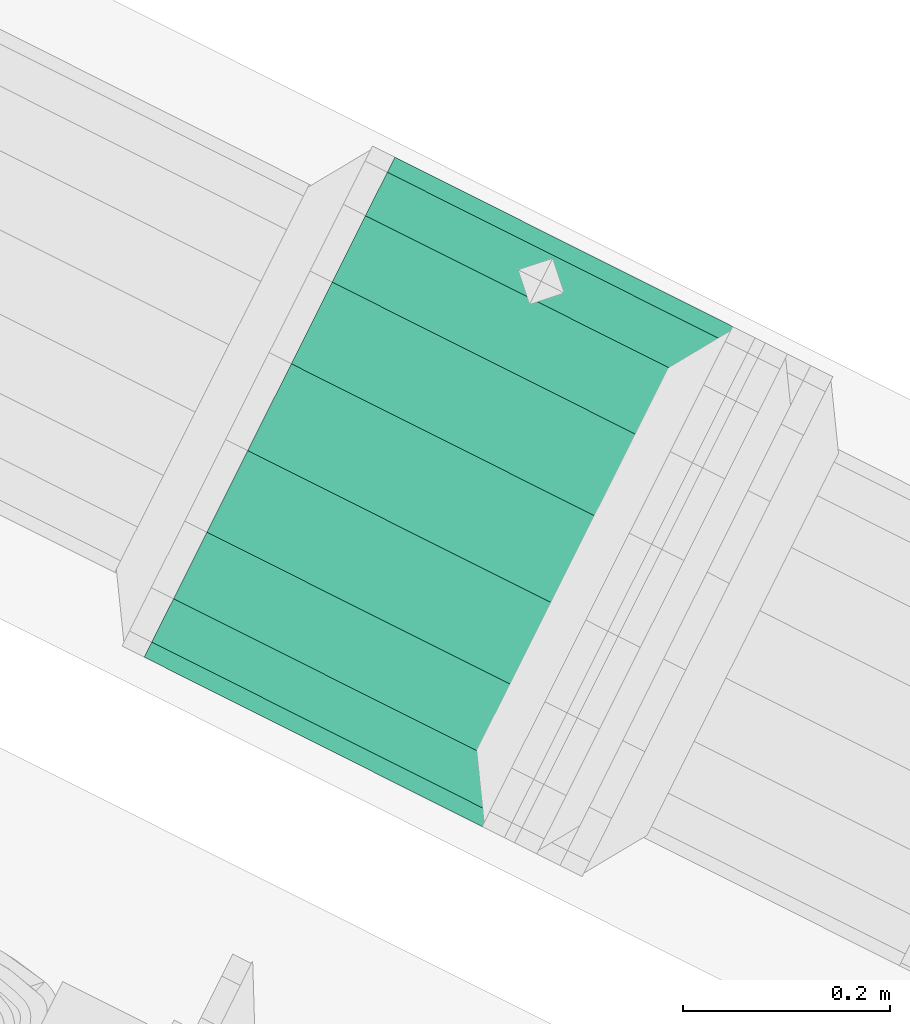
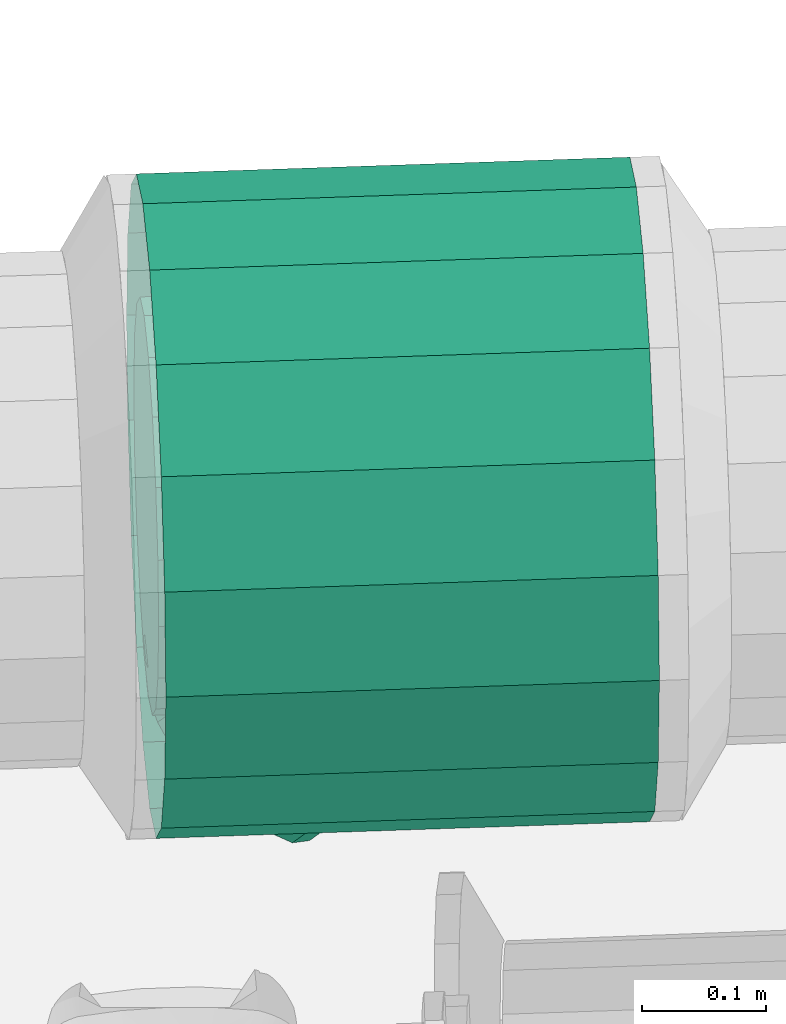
# One storey, part 12 of 152: 1 flow treatment device.
"""IFC2X3 building model written with IfcOpenShell, lengths in metres."""

from ifc_helpers import new_model, si_unit, derived_unit, direction, frame, origin, place, context, subcontext, project, spatial, face_set, surface_model, source, transform, mapped, material, type_object, type_shapes, element, save


model = new_model("IFC2X3")

# Units and contexts
model_context = context("Model", 3, precision=5.2338327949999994e-05, world=origin(), true_north=direction((0.0, 1.0)))
body_context = subcontext(model_context, "Body", "Model", "MODEL_VIEW")
ifc_project = project(units=[si_unit("LENGTHUNIT", "METRE"), si_unit("AREAUNIT", "SQUARE_METRE"), si_unit("VOLUMEUNIT", "CUBIC_METRE"), si_unit("MASSUNIT", "GRAM", prefix="KILO"), si_unit("PLANEANGLEUNIT", "RADIAN"), derived_unit("THERMALTRANSMITTANCEUNIT", [(si_unit("MASSUNIT", "GRAM", prefix="KILO"), 1), (si_unit("THERMODYNAMICTEMPERATUREUNIT", "KELVIN"), -1), (si_unit("TIMEUNIT", "SECOND"), -3)])], contexts=[model_context])

# Site, building, storey
site_placement = place(None, frame((0.0, 0.0, 0.0), z_axis=(0.0, 0.0, 1.0), x_axis=(0.8939966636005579, -0.4480736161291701, 0.0)))
site = spatial("IfcSite", under=ifc_project, at=site_placement, Name="Default", CompositionType="ELEMENT")
building_placement = place(site_placement, origin())
building = spatial("IfcBuilding", under=site, at=building_placement, CompositionType="ELEMENT")
storey_placement = place(building_placement, frame((0.0, 0.0, 2.7499999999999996)))
storey = spatial("IfcBuildingStorey", under=building, at=storey_placement, Name="1. Obergeschoss", CompositionType="ELEMENT", Elevation=2.7499999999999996)

# Flow treatment device
ifc_material = material(Name="IfcSurfaceStyle #1741")
distribution_element_type = type_object("IfcDistributionElementType", Name="Schmutzfänger:Schmutzfänger", material=ifc_material)
shared_shape = source(origin(), body_context, "Body", "SurfaceModel", [
    surface_model("IfcFaceBasedSurfaceModel", [(10.6706219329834, 8.012208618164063, 3.350319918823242), (10.871766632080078, 8.012208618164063, 3.519100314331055), (10.688774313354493, 7.974739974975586, 3.356926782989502), (10.876012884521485, 7.974739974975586, 3.51403928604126), (10.741039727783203, 7.941790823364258, 3.3759497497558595), (10.888241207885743, 7.941790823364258, 3.4994666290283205), (10.821115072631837, 7.9173353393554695, 3.4050950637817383), (10.906974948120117, 7.9173353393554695, 3.4771400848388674), (10.919342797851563, 7.904322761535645, 3.4408469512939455), (10.929956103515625, 7.904322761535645, 3.4497525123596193), (10.937428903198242, 7.904322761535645, 3.4408469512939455), (10.954411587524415, 7.904322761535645, 3.420607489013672), (10.978532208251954, 7.904322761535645, 3.4408469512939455), (10.991545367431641, 7.9173353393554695, 3.4050950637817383), (10.977392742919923, 7.9173353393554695, 3.393219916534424), (11.002152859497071, 7.941790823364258, 3.3759497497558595), (10.996126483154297, 7.941790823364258, 3.370893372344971), (11.00907685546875, 7.974739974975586, 3.356926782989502), (11.008354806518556, 7.974739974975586, 3.3563210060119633), (11.010019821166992, 7.989426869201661, 3.3543371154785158), (11.012601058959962, 8.012208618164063, 3.3512599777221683), (11.011481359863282, 8.012208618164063, 3.350319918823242), (11.010019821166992, 8.034990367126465, 3.3543371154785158), (11.00907685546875, 8.049676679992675, 3.356926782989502), (11.008354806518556, 8.049676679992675, 3.3563210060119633), (10.996126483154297, 8.082625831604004, 3.370893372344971), (11.002152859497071, 8.082625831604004, 3.3759497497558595), (10.977392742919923, 8.107081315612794, 3.393219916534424), (10.991545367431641, 8.107081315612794, 3.4050950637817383), (10.954411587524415, 8.120093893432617, 3.420607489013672), (10.978532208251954, 8.120093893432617, 3.4408469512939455), (10.937428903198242, 8.120093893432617, 3.4408469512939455), (10.919342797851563, 8.120093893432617, 3.4408469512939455), (10.929956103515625, 8.120093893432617, 3.4497525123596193), (10.906974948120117, 8.107081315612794, 3.4771400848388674), (10.821115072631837, 8.107081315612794, 3.4050950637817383), (10.888241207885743, 8.082625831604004, 3.4994666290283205), (10.741039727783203, 8.082625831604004, 3.3759497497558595), (10.876012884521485, 8.049676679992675, 3.51403928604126), (10.688774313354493, 8.049676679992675, 3.356926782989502), (11.011653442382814, 8.182208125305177, 3.4598699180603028), (11.035654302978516, 8.182208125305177, 3.4598699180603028), (11.035654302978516, 8.171956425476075, 3.401726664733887), (11.011653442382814, 8.171956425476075, 3.401726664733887), (11.035654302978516, 8.142436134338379, 3.350596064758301), (11.011653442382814, 8.142436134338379, 3.350596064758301), (11.011653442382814, 8.097208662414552, 3.312645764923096), (11.035654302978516, 8.097208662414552, 3.312645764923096), (11.035654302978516, 8.041728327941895, 3.2924528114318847), (11.011653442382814, 8.041728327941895, 3.2924528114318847), (11.035654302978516, 7.982688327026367, 3.2924528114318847), (11.011653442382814, 7.982688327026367, 3.2924528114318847), (11.011653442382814, 7.927208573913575, 3.312645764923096), (11.035654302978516, 7.927208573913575, 3.312645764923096), (11.011653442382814, 7.881981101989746, 3.350596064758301), (11.035654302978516, 7.881981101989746, 3.350596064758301), (11.011653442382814, 7.852460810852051, 3.401726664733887), (11.035654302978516, 7.852460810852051, 3.401726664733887), (11.035654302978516, 7.842208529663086, 3.4598699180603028), (11.011653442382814, 7.842208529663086, 3.4598699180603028), (11.035654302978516, 7.852460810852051, 3.5180134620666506), (11.011653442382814, 7.852460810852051, 3.5180134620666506), (11.011653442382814, 7.881981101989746, 3.5691440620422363), (11.035654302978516, 7.881981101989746, 3.5691440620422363), (11.011653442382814, 7.927208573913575, 3.6070943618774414), (11.035654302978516, 7.927208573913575, 3.6070943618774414), (11.035654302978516, 7.982688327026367, 3.6272873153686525), (11.011653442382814, 7.982688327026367, 3.6272873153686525), (11.011653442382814, 8.041728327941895, 3.6272873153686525), (11.035654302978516, 8.041728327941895, 3.6272873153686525), (11.011653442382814, 8.097208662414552, 3.6070943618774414), (11.035654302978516, 8.097208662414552, 3.6070943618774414), (11.011653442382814, 8.142436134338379, 3.5691440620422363), (11.035654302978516, 8.142436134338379, 3.5691440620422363), (11.035654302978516, 8.171956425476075, 3.5180134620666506), (11.011653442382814, 8.171956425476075, 3.5180134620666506), (11.035654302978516, 8.012208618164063, 3.4598699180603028), (11.011653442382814, 8.012208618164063, 3.4598699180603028), (10.659653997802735, 8.121758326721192, 3.4598699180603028), (11.011653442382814, 8.121758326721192, 3.4598699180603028), (10.659653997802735, 8.115151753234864, 3.42240185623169), (11.011653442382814, 8.115151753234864, 3.42240185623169), (11.011653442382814, 8.096128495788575, 3.3894527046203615), (10.659653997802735, 8.096128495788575, 3.3894527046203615), (10.659653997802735, 8.066983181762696, 3.3649969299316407), (11.011653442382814, 8.066983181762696, 3.3649969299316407), (10.659653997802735, 8.031231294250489, 3.3519843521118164), (11.011653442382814, 8.031231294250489, 3.3519843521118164), (10.659653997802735, 7.993185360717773, 3.3519843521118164), (11.011653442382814, 7.993185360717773, 3.3519843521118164), (10.659653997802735, 7.957433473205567, 3.3649969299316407), (11.011653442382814, 7.957433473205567, 3.3649969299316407), (11.011653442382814, 7.928288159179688, 3.3894527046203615), (10.659653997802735, 7.928288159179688, 3.3894527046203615), (11.011653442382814, 7.9092649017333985, 3.42240185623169), (10.659653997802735, 7.9092649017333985, 3.42240185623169), (10.659653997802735, 7.902658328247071, 3.4598699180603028), (11.011653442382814, 7.902658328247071, 3.4598699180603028), (11.011653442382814, 7.9092649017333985, 3.497338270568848), (10.659653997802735, 7.9092649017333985, 3.497338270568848), (11.011653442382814, 7.928288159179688, 3.530287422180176), (10.659653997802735, 7.928288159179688, 3.530287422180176), (10.659653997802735, 7.957433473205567, 3.5547431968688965), (11.011653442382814, 7.957433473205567, 3.5547431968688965), (11.011653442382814, 7.993185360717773, 3.5677557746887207), (10.659653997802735, 7.993185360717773, 3.5677557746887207), (11.011653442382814, 8.031231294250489, 3.5677557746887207), (10.659653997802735, 8.031231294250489, 3.5677557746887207), (10.659653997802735, 8.066983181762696, 3.5547431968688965), (11.011653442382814, 8.066983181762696, 3.5547431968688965), (11.011653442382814, 8.096128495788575, 3.530287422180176), (10.659653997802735, 8.096128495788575, 3.530287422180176), (10.659653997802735, 8.115151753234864, 3.497338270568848), (11.011653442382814, 8.115151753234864, 3.497338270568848), (10.635654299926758, 8.182208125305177, 3.4598699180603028), (10.659653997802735, 8.182208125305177, 3.4598699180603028), (10.659653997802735, 8.171956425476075, 3.401726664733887), (10.635654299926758, 8.171956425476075, 3.401726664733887), (10.659653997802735, 8.142436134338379, 3.350596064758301), (10.635654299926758, 8.142436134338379, 3.350596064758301), (10.635654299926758, 8.097208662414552, 3.312645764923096), (10.659653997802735, 8.097208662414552, 3.312645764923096), (10.659653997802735, 8.041728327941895, 3.2924528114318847), (10.635654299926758, 8.041728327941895, 3.2924528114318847), (10.659653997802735, 7.982688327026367, 3.2924528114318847), (10.635654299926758, 7.982688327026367, 3.2924528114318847), (10.659653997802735, 7.927208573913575, 3.312645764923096), (10.635654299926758, 7.927208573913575, 3.312645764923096), (10.659653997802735, 7.881981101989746, 3.350596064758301), (10.635654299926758, 7.881981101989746, 3.350596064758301), (10.659653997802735, 7.852460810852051, 3.401726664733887), (10.635654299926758, 7.852460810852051, 3.401726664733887), (10.635654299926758, 7.842208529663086, 3.4598699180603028), (10.659653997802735, 7.842208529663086, 3.4598699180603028), (10.635654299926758, 7.852460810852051, 3.5180134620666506), (10.659653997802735, 7.852460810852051, 3.5180134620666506), (10.635654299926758, 7.881981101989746, 3.5691440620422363), (10.659653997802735, 7.881981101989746, 3.5691440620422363), (10.635654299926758, 7.927208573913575, 3.6070943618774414), (10.659653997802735, 7.927208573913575, 3.6070943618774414), (10.659653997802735, 7.982688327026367, 3.6272873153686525), (10.635654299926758, 7.982688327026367, 3.6272873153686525), (10.659653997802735, 8.041728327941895, 3.6272873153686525), (10.635654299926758, 8.041728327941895, 3.6272873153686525), (10.659653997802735, 8.097208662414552, 3.6070943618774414), (10.635654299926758, 8.097208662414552, 3.6070943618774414), (10.635654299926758, 8.142436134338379, 3.5691440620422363), (10.659653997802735, 8.142436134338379, 3.5691440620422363), (10.659653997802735, 8.171956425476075, 3.5180134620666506), (10.635654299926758, 8.171956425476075, 3.5180134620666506), (10.659653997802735, 8.012208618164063, 3.4598699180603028), (10.635654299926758, 8.012208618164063, 3.4598699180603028), (10.92533080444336, 8.092058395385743, 3.421038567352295), (10.942184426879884, 8.092058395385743, 3.4351801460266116), (10.959739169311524, 8.087242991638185, 3.414259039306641), (10.942885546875, 8.087242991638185, 3.4001177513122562), (10.95832297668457, 8.073376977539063, 3.381720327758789), (10.975176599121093, 8.073376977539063, 3.395861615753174), (10.969781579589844, 8.052133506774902, 3.368065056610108), (10.986634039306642, 8.052133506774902, 3.3822063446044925), (10.97587771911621, 8.02607405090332, 3.3607992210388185), (10.992731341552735, 8.02607405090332, 3.374940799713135), (10.97587771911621, 7.998342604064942, 3.3607992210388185), (10.992731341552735, 7.998342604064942, 3.374940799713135), (10.969781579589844, 7.97228314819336, 3.368065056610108), (10.986634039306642, 7.97228314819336, 3.3822063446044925), (10.975176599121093, 7.9510396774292, 3.395861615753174), (10.95832297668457, 7.9510396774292, 3.381720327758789), (10.959739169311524, 7.9371736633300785, 3.414259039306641), (10.942885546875, 7.9371736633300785, 3.4001177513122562), (10.92533080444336, 7.93235825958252, 3.421038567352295), (10.942184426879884, 7.93235825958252, 3.4351801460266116), (10.924629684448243, 7.9371736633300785, 3.4561009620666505), (10.907776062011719, 7.9371736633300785, 3.4419596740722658), (10.909192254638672, 7.9510396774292, 3.4744983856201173), (10.892338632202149, 7.9510396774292, 3.4603570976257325), (10.880881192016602, 7.97228314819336, 3.474012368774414), (10.897733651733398, 7.97228314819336, 3.488153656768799), (10.891637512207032, 7.998342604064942, 3.495419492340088), (10.874783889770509, 7.998342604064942, 3.481278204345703), (10.874783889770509, 8.02607405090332, 3.481278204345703), (10.891637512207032, 8.02607405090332, 3.495419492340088), (10.880881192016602, 8.052133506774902, 3.474012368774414), (10.897733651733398, 8.052133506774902, 3.488153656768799), (10.892338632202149, 8.073376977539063, 3.4603570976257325), (10.909192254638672, 8.073376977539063, 3.4744983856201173), (10.907776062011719, 8.087242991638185, 3.4419596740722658), (10.924629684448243, 8.087242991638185, 3.4561009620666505), (10.942184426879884, 8.012208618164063, 3.4351801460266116), (10.92533080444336, 8.012208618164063, 3.421038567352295), (10.70383385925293, 8.121758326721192, 3.2351801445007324), (10.92533080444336, 8.121758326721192, 3.421038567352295), (10.949415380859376, 8.115151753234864, 3.3923362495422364), (10.727917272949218, 8.115151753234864, 3.2064775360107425), (10.970594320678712, 8.096128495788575, 3.3670959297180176), (10.749096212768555, 8.096128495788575, 3.1812372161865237), (10.986314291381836, 8.066983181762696, 3.3483616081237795), (10.76481618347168, 8.066983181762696, 3.1625028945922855), (10.77318078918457, 8.031231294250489, 3.152534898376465), (10.994678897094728, 8.031231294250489, 3.3383936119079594), (10.994678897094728, 7.993185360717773, 3.3383936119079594), (10.77318078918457, 7.993185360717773, 3.152534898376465), (10.986314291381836, 7.957433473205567, 3.3483616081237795), (10.76481618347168, 7.957433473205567, 3.1625028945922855), (10.749096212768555, 7.928288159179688, 3.1812372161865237), (10.970594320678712, 7.928288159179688, 3.3670959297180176), (10.727917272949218, 7.9092649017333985, 3.2064775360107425), (10.949415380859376, 7.9092649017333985, 3.3923362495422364), (10.70383385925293, 7.902658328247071, 3.2351801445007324), (10.92533080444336, 7.902658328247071, 3.421038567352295), (10.901247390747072, 7.9092649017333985, 3.449741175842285), (10.679749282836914, 7.9092649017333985, 3.263882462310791), (10.658570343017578, 7.928288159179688, 3.28912278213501), (10.880067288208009, 7.928288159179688, 3.474981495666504), (10.864347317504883, 7.957433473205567, 3.4937158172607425), (10.642850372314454, 7.957433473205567, 3.307857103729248), (10.634485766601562, 7.993185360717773, 3.3178253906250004), (10.85598387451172, 7.993185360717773, 3.5036838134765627), (10.85598387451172, 8.031231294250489, 3.5036838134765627), (10.634485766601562, 8.031231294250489, 3.3178253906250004), (10.642850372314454, 8.066983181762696, 3.307857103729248), (10.864347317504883, 8.066983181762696, 3.4937158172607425), (10.658570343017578, 8.096128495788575, 3.28912278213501), (10.880067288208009, 8.096128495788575, 3.474981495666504), (10.901247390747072, 8.115151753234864, 3.449741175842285), (10.679749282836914, 8.115151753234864, 3.263882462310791), (10.686980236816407, 8.092058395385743, 3.221038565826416), (10.70383385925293, 8.092058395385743, 3.2351801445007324), (10.704534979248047, 8.087242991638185, 3.200117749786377), (10.721388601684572, 8.087242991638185, 3.214259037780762), (10.719972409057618, 8.073376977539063, 3.1817203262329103), (10.736826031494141, 8.073376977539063, 3.195861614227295), (10.731431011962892, 8.052133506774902, 3.1680650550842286), (10.748283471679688, 8.052133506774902, 3.1822063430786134), (10.737527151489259, 8.02607405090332, 3.1607992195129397), (10.754380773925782, 8.02607405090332, 3.174940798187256), (10.737527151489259, 7.998342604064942, 3.1607992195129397), (10.754380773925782, 7.998342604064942, 3.174940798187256), (10.748283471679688, 7.97228314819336, 3.1822063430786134), (10.731431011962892, 7.97228314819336, 3.1680650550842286), (10.719972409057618, 7.9510396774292, 3.1817203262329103), (10.736826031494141, 7.9510396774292, 3.195861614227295), (10.704534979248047, 7.9371736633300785, 3.200117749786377), (10.721388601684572, 7.9371736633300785, 3.214259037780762), (10.70383385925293, 7.93235825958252, 3.2351801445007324), (10.686980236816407, 7.93235825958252, 3.221038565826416), (10.669425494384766, 7.9371736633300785, 3.241959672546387), (10.68627911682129, 7.9371736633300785, 3.256100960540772), (10.653988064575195, 7.9510396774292, 3.260357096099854), (10.67084168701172, 7.9510396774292, 3.2744983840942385), (10.642530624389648, 7.97228314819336, 3.2740123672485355), (10.659383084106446, 7.97228314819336, 3.2881536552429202), (10.65328694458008, 7.998342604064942, 3.295419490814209), (10.636433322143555, 7.998342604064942, 3.2812782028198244), (10.636433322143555, 8.02607405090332, 3.2812782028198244), (10.65328694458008, 8.02607405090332, 3.295419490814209), (10.659383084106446, 8.052133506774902, 3.2881536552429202), (10.642530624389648, 8.052133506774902, 3.2740123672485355), (10.67084168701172, 8.073376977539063, 3.2744983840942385), (10.653988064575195, 8.073376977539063, 3.260357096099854), (10.669425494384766, 8.087242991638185, 3.241959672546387), (10.68627911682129, 8.087242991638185, 3.256100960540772), (10.70383385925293, 8.012208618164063, 3.2351801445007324), (10.686980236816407, 8.012208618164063, 3.221038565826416), (10.635654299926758, 8.282208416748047, 3.4598699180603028), (11.035654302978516, 8.282208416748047, 3.4598699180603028), (10.635654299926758, 8.265925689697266, 3.3675246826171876), (11.035654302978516, 8.265925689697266, 3.3675246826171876), (11.035654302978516, 8.21904017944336, 3.2863174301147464), (10.635654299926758, 8.21904017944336, 3.2863174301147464), (10.635654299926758, 8.147208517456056, 3.226043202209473), (11.035654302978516, 8.147208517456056, 3.226043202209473), (11.035654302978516, 8.059093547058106, 3.193971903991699), (10.635654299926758, 8.059093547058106, 3.193971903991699), (11.035654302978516, 7.965323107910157, 3.193971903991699), (10.635654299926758, 7.965323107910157, 3.193971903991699), (10.635654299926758, 7.877208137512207, 3.226043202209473), (11.035654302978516, 7.877208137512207, 3.226043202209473), (10.635654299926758, 7.805376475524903, 3.2863174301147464), (11.035654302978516, 7.805376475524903, 3.2863174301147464), (10.635654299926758, 7.75849154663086, 3.3675246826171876), (11.035654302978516, 7.75849154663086, 3.3675246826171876), (10.635654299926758, 7.742208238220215, 3.4598699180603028), (11.035654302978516, 7.742208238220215, 3.4598699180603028), (11.035654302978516, 7.75849154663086, 3.55221544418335), (10.635654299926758, 7.75849154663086, 3.55221544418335), (10.635654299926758, 7.805376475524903, 3.633422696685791), (11.035654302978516, 7.805376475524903, 3.633422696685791), (10.635654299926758, 7.877208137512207, 3.6936969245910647), (11.035654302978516, 7.877208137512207, 3.6936969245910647), (11.035654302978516, 7.965323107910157, 3.725768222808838), (10.635654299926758, 7.965323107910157, 3.725768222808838), (10.635654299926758, 8.059093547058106, 3.725768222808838), (11.035654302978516, 8.059093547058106, 3.725768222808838), (10.635654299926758, 8.147208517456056, 3.6936969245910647), (11.035654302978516, 8.147208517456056, 3.6936969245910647), (11.035654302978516, 8.21904017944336, 3.633422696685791), (10.635654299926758, 8.21904017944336, 3.633422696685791), (11.035654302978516, 8.265925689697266, 3.55221544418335), (10.635654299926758, 8.265925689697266, 3.55221544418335)], [face_set([[[0, 1, 2]], [[3, 2, 1]], [[2, 3, 4]], [[5, 4, 3]], [[4, 5, 6]], [[7, 6, 5]], [[6, 7, 8]], [[9, 8, 7]], [[9, 8, 10]], [[11, 12, 10]], [[12, 11, 13]], [[14, 13, 11]], [[13, 14, 15]], [[16, 15, 14]], [[15, 16, 17]], [[18, 17, 16]], [[18, 17, 19]], [[20, 21, 19]], [[21, 20, 22]], [[23, 24, 22]], [[23, 24, 25]], [[25, 26, 23]], [[26, 25, 27]], [[27, 28, 26]], [[28, 27, 29]], [[29, 30, 28]], [[30, 29, 31]], [[32, 33, 31]], [[32, 33, 34]], [[34, 35, 32]], [[35, 34, 36]], [[36, 37, 35]], [[37, 36, 38]], [[38, 39, 37]], [[39, 38, 1]], [[1, 0, 39]], [[40, 41, 42]], [[42, 43, 40]], [[43, 42, 44]], [[44, 45, 43]], [[45, 44, 46]], [[47, 46, 44]], [[46, 47, 48]], [[48, 49, 46]], [[49, 48, 50]], [[50, 51, 49]], [[51, 50, 52]], [[53, 52, 50]], [[52, 53, 54]], [[55, 54, 53]], [[54, 55, 56]], [[57, 56, 55]], [[56, 57, 58]], [[58, 59, 56]], [[59, 58, 60]], [[60, 61, 59]], [[61, 60, 62]], [[63, 62, 60]], [[62, 63, 64]], [[65, 64, 63]], [[64, 65, 66]], [[66, 67, 64]], [[67, 66, 68]], [[69, 68, 66]], [[68, 69, 70]], [[71, 70, 69]], [[70, 71, 72]], [[73, 72, 71]], [[72, 73, 74]], [[74, 75, 72]], [[75, 74, 40]], [[41, 40, 74]], [[76, 42, 41]], [[76, 44, 42]], [[76, 47, 44]], [[76, 48, 47]], [[76, 50, 48]], [[76, 53, 50]], [[76, 55, 53]], [[76, 57, 55]], [[76, 58, 57]], [[76, 60, 58]], [[76, 63, 60]], [[76, 65, 63]], [[76, 66, 65]], [[76, 69, 66]], [[76, 71, 69]], [[76, 73, 71]], [[76, 74, 73]], [[76, 41, 74]], [[77, 75, 40]], [[77, 72, 75]], [[77, 70, 72]], [[77, 68, 70]], [[77, 67, 68]], [[77, 64, 67]], [[77, 62, 64]], [[77, 61, 62]], [[77, 59, 61]], [[77, 56, 59]], [[77, 54, 56]], [[77, 52, 54]], [[77, 51, 52]], [[77, 49, 51]], [[77, 46, 49]], [[77, 45, 46]], [[77, 43, 45]], [[77, 40, 43]], [[78, 79, 80]], [[81, 80, 79]], [[80, 81, 82]], [[82, 83, 80]], [[83, 82, 84]], [[85, 84, 82]], [[84, 85, 86]], [[87, 86, 85]], [[86, 87, 88]], [[89, 88, 87]], [[88, 89, 90]], [[91, 90, 89]], [[90, 91, 92]], [[92, 93, 90]], [[93, 92, 94]], [[94, 95, 93]], [[95, 94, 96]], [[97, 96, 94]], [[96, 97, 98]], [[98, 99, 96]], [[99, 98, 100]], [[100, 101, 99]], [[101, 100, 102]], [[103, 102, 100]], [[102, 103, 104]], [[104, 105, 102]], [[105, 104, 106]], [[106, 107, 105]], [[107, 106, 108]], [[109, 108, 106]], [[108, 109, 110]], [[110, 111, 108]], [[111, 110, 112]], [[113, 112, 110]], [[112, 113, 78]], [[79, 78, 113]], [[114, 115, 116]], [[116, 117, 114]], [[117, 116, 118]], [[118, 119, 117]], [[119, 118, 120]], [[121, 120, 118]], [[120, 121, 122]], [[122, 123, 120]], [[123, 122, 124]], [[124, 125, 123]], [[125, 124, 126]], [[126, 127, 125]], [[127, 126, 128]], [[128, 129, 127]], [[129, 128, 130]], [[130, 131, 129]], [[131, 130, 132]], [[133, 132, 130]], [[132, 133, 134]], [[135, 134, 133]], [[134, 135, 136]], [[137, 136, 135]], [[136, 137, 138]], [[139, 138, 137]], [[138, 139, 140]], [[140, 141, 138]], [[141, 140, 142]], [[142, 143, 141]], [[143, 142, 144]], [[144, 145, 143]], [[145, 144, 146]], [[147, 146, 144]], [[146, 147, 148]], [[148, 149, 146]], [[149, 148, 114]], [[115, 114, 148]], [[150, 116, 115]], [[150, 118, 116]], [[150, 121, 118]], [[150, 122, 121]], [[150, 124, 122]], [[150, 126, 124]], [[150, 128, 126]], [[150, 130, 128]], [[150, 133, 130]], [[150, 135, 133]], [[150, 137, 135]], [[150, 139, 137]], [[150, 140, 139]], [[150, 142, 140]], [[150, 144, 142]], [[150, 147, 144]], [[150, 148, 147]], [[150, 115, 148]], [[151, 149, 114]], [[151, 146, 149]], [[151, 145, 146]], [[151, 143, 145]], [[151, 141, 143]], [[151, 138, 141]], [[151, 136, 138]], [[151, 134, 136]], [[151, 132, 134]], [[151, 131, 132]], [[151, 129, 131]], [[151, 127, 129]], [[151, 125, 127]], [[151, 123, 125]], [[151, 120, 123]], [[151, 119, 120]], [[151, 117, 119]], [[151, 114, 117]], [[152, 153, 154]], [[154, 155, 152]], [[155, 154, 156]], [[157, 156, 154]], [[156, 157, 158]], [[159, 158, 157]], [[158, 159, 160]], [[161, 160, 159]], [[160, 161, 162]], [[163, 162, 161]], [[162, 163, 164]], [[165, 164, 163]], [[164, 165, 166]], [[166, 167, 164]], [[167, 166, 168]], [[168, 169, 167]], [[169, 168, 170]], [[171, 170, 168]], [[170, 171, 172]], [[172, 173, 170]], [[173, 172, 174]], [[174, 175, 173]], [[175, 174, 176]], [[177, 176, 174]], [[176, 177, 178]], [[178, 179, 176]], [[179, 178, 180]], [[181, 180, 178]], [[180, 181, 182]], [[183, 182, 181]], [[182, 183, 184]], [[185, 184, 183]], [[184, 185, 186]], [[187, 186, 185]], [[186, 187, 153]], [[153, 152, 186]], [[188, 154, 153]], [[188, 157, 154]], [[188, 159, 157]], [[188, 161, 159]], [[188, 163, 161]], [[188, 165, 163]], [[188, 166, 165]], [[188, 168, 166]], [[188, 171, 168]], [[188, 172, 171]], [[188, 174, 172]], [[188, 177, 174]], [[188, 178, 177]], [[188, 181, 178]], [[188, 183, 181]], [[188, 185, 183]], [[188, 187, 185]], [[188, 153, 187]], [[189, 186, 152]], [[189, 184, 186]], [[189, 182, 184]], [[189, 180, 182]], [[189, 179, 180]], [[189, 176, 179]], [[189, 175, 176]], [[189, 173, 175]], [[189, 170, 173]], [[189, 169, 170]], [[189, 167, 169]], [[189, 164, 167]], [[189, 162, 164]], [[189, 160, 162]], [[189, 158, 160]], [[189, 156, 158]], [[189, 155, 156]], [[189, 152, 155]], [[190, 191, 192]], [[192, 193, 190]], [[193, 192, 194]], [[194, 195, 193]], [[195, 194, 196]], [[196, 197, 195]], [[197, 196, 198]], [[199, 198, 196]], [[198, 199, 200]], [[200, 201, 198]], [[201, 200, 202]], [[202, 203, 201]], [[203, 202, 204]], [[205, 204, 202]], [[204, 205, 206]], [[207, 206, 205]], [[206, 207, 208]], [[209, 208, 207]], [[208, 209, 210]], [[210, 211, 208]], [[211, 210, 212]], [[213, 212, 210]], [[212, 213, 214]], [[214, 215, 212]], [[215, 214, 216]], [[217, 216, 214]], [[216, 217, 218]], [[218, 219, 216]], [[219, 218, 220]], [[221, 220, 218]], [[220, 221, 222]], [[223, 222, 221]], [[222, 223, 224]], [[224, 225, 222]], [[225, 224, 190]], [[191, 190, 224]], [[226, 227, 228]], [[229, 228, 227]], [[228, 229, 230]], [[231, 230, 229]], [[230, 231, 232]], [[233, 232, 231]], [[232, 233, 234]], [[235, 234, 233]], [[234, 235, 236]], [[237, 236, 235]], [[236, 237, 238]], [[238, 239, 236]], [[239, 238, 240]], [[241, 240, 238]], [[240, 241, 242]], [[243, 242, 241]], [[242, 243, 244]], [[244, 245, 242]], [[245, 244, 246]], [[247, 246, 244]], [[246, 247, 248]], [[249, 248, 247]], [[248, 249, 250]], [[251, 250, 249]], [[250, 251, 252]], [[252, 253, 250]], [[253, 252, 254]], [[255, 254, 252]], [[254, 255, 256]], [[256, 257, 254]], [[257, 256, 258]], [[258, 259, 257]], [[259, 258, 260]], [[261, 260, 258]], [[260, 261, 227]], [[227, 226, 260]], [[262, 229, 227]], [[262, 231, 229]], [[262, 233, 231]], [[262, 235, 233]], [[262, 237, 235]], [[262, 238, 237]], [[262, 241, 238]], [[262, 243, 241]], [[262, 244, 243]], [[262, 247, 244]], [[262, 249, 247]], [[262, 251, 249]], [[262, 252, 251]], [[262, 255, 252]], [[262, 256, 255]], [[262, 258, 256]], [[262, 261, 258]], [[262, 227, 261]], [[263, 260, 226]], [[263, 259, 260]], [[263, 257, 259]], [[263, 254, 257]], [[263, 253, 254]], [[263, 250, 253]], [[263, 248, 250]], [[263, 246, 248]], [[263, 245, 246]], [[263, 242, 245]], [[263, 240, 242]], [[263, 239, 240]], [[263, 236, 239]], [[263, 234, 236]], [[263, 232, 234]], [[263, 230, 232]], [[263, 228, 230]], [[263, 226, 228]], [[264, 265, 266]], [[267, 266, 265]], [[266, 267, 268]], [[268, 269, 266]], [[269, 268, 270]], [[271, 270, 268]], [[270, 271, 272]], [[272, 273, 270]], [[273, 272, 274]], [[274, 275, 273]], [[275, 274, 276]], [[277, 276, 274]], [[276, 277, 278]], [[279, 278, 277]], [[278, 279, 280]], [[281, 280, 279]], [[280, 281, 282]], [[283, 282, 281]], [[282, 283, 284]], [[284, 285, 282]], [[285, 284, 286]], [[287, 286, 284]], [[286, 287, 288]], [[289, 288, 287]], [[288, 289, 290]], [[290, 291, 288]], [[291, 290, 292]], [[293, 292, 290]], [[292, 293, 294]], [[295, 294, 293]], [[294, 295, 296]], [[296, 297, 294]], [[297, 296, 298]], [[298, 299, 297]], [[299, 298, 265]], [[265, 264, 299]]])]),
])
type_shapes(distribution_element_type, [shared_shape])
flow_treatment_device_placement = place(storey_placement, frame((0.0, 0.0, -2.7499999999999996)))
element("IfcFlowTreatmentDevice", 1, at=flow_treatment_device_placement, inside=storey, type_object=distribution_element_type, material=ifc_material, Name="Schmutzfänger", ObjectType="Schmutzfänger", context=body_context, shape_type="MappedRepresentation", body=[
    mapped(shared_shape, transform((0.0, 0.0, 0.0), scale=1.0)),
])

save(model, "model.ifc")
